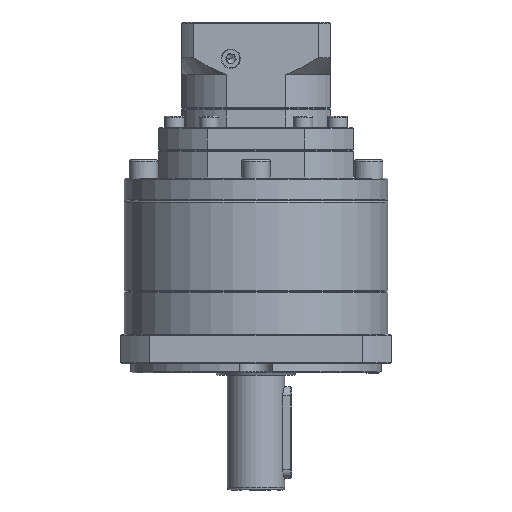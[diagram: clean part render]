
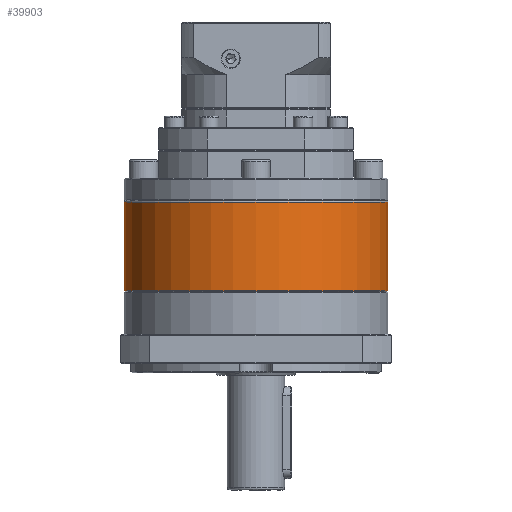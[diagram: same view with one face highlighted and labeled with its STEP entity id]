
A CAD part, front view. The second image highlights one B-rep face of the part: STEP entity #39903.
In plain terms, the highlighted cylindrical face has radius 57.5 mm (diameter 115 mm), a partial arc.
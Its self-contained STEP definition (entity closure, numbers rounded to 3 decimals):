
#4028 = CARTESIAN_POINT ( 'NONE',  ( 17.316, 3.097, 208.652 ) ) ;
#10340 = DIRECTION ( 'NONE',  ( 0., 0., 1. ) ) ;
#11973 = DIRECTION ( 'NONE',  ( 0., 0., -1. ) ) ;
#19307 = ORIENTED_EDGE ( 'NONE', *, *, #42057, .T. ) ;
#22551 = CIRCLE ( 'NONE', #42923, 57.5 ) ;
#24944 = CARTESIAN_POINT ( 'NONE',  ( -97.684, 3.097, 208.652 ) ) ;
#27830 = CARTESIAN_POINT ( 'NONE',  ( -97.684, 3.097, 209.152 ) ) ;
#31355 = ORIENTED_EDGE ( 'NONE', *, *, #133221, .T. ) ;
#31684 = CARTESIAN_POINT ( 'NONE',  ( 17.316, 3.097, 209.152 ) ) ;
#33538 = DIRECTION ( 'NONE',  ( -1., 0., 0. ) ) ;
#37747 = DIRECTION ( 'NONE',  ( 0., 0., -1. ) ) ;
#37960 = ORIENTED_EDGE ( 'NONE', *, *, #110886, .T. ) ;
#39903 = ADVANCED_FACE ( 'NONE', ( #93468 ), #66099, .T. ) ;
#42057 = EDGE_CURVE ( 'NONE', #127587, #129775, #22551, .T. ) ;
#42923 = AXIS2_PLACEMENT_3D ( 'NONE', #54893, #128435, #96240 ) ;
#49060 = CARTESIAN_POINT ( 'NONE',  ( 17.316, 3.097, 169.941 ) ) ;
#51000 = CARTESIAN_POINT ( 'NONE',  ( -97.684, 3.097, 169.941 ) ) ;
#51695 = DIRECTION ( 'NONE',  ( -1., 0., 0. ) ) ;
#53756 = AXIS2_PLACEMENT_3D ( 'NONE', #94209, #11973, #33538 ) ;
#54893 = CARTESIAN_POINT ( 'NONE',  ( -40.184, 3.097, 208.652 ) ) ;
#57416 = VERTEX_POINT ( 'NONE', #51000 ) ;
#66099 = CYLINDRICAL_SURFACE ( 'NONE', #53756, 57.5 ) ;
#68291 = ORIENTED_EDGE ( 'NONE', *, *, #88463, .F. ) ;
#68726 = CIRCLE ( 'NONE', #110262, 57.5 ) ;
#73094 = EDGE_LOOP ( 'NONE', ( #68291, #19307, #37960, #31355 ) ) ;
#77164 = VECTOR ( 'NONE', #37747, 1000. ) ;
#78851 = LINE ( 'NONE', #27830, #77164 ) ;
#83670 = DIRECTION ( 'NONE',  ( 0., 0., -1. ) ) ;
#88463 = EDGE_CURVE ( 'NONE', #127587, #94226, #128920, .T. ) ;
#93468 = FACE_OUTER_BOUND ( 'NONE', #73094, .T. ) ;
#94209 = CARTESIAN_POINT ( 'NONE',  ( -40.184, 3.097, 209.152 ) ) ;
#94226 = VERTEX_POINT ( 'NONE', #49060 ) ;
#96240 = DIRECTION ( 'NONE',  ( -1., 0., 0. ) ) ;
#110262 = AXIS2_PLACEMENT_3D ( 'NONE', #123449, #10340, #51695 ) ;
#110886 = EDGE_CURVE ( 'NONE', #129775, #57416, #78851, .T. ) ;
#119297 = VECTOR ( 'NONE', #83670, 1000. ) ;
#123449 = CARTESIAN_POINT ( 'NONE',  ( -40.184, 3.097, 169.941 ) ) ;
#127587 = VERTEX_POINT ( 'NONE', #4028 ) ;
#128435 = DIRECTION ( 'NONE',  ( 0., 0., -1. ) ) ;
#128920 = LINE ( 'NONE', #31684, #119297 ) ;
#129775 = VERTEX_POINT ( 'NONE', #24944 ) ;
#133221 = EDGE_CURVE ( 'NONE', #57416, #94226, #68726, .T. ) ;
